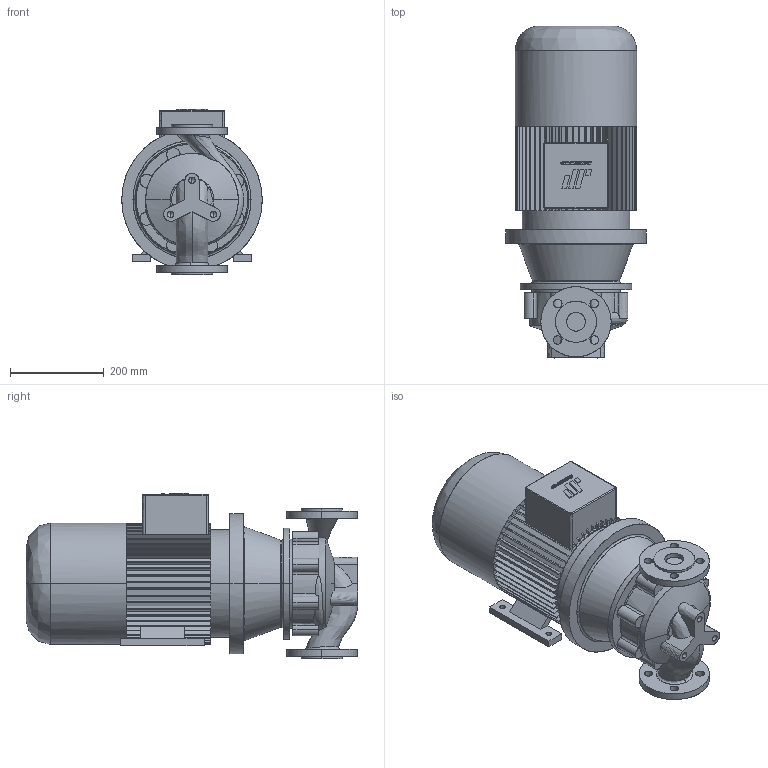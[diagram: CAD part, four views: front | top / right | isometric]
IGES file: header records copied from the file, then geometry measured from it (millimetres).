
Start section: CombiLine
Global section: file name: CLB_40-160_IEC132S_ND10.igs; native system:  By UGS Corp.; preprocessor: XPlus GENERIC/IGES 3.0; author: Stageplaats; organization: Johnson Pump Water B.V.; date: 20070716.105652; units: millimetre
Bounding box: 300 x 709 x 353 mm (x, y, z)
Surface area: 1109212.6 mm2 (no closed solid volume)
Topology: 0 solids, 0 shells, 578 faces, 3511 edges, 3505 vertices
Faces by surface type: bspline 578
